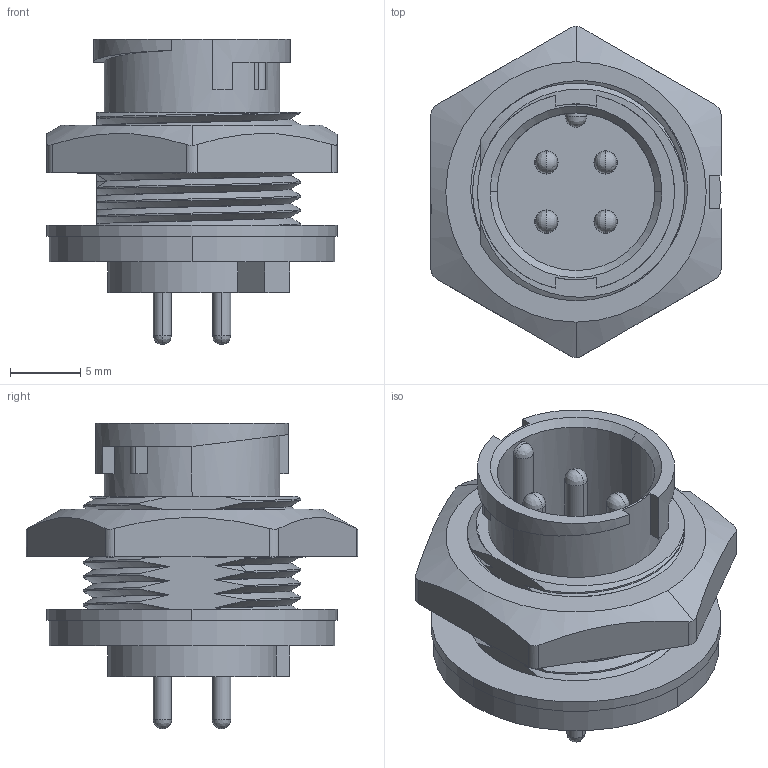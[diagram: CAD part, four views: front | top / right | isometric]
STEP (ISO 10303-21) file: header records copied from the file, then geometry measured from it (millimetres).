
FILE_DESCRIPTION (( 'STEP AP203' ), '1' );
FILE_NAME ('870-04A-113R001.STEP', '2024-06-14T18:46:33', ( '' ), ( '' ), 'SwSTEP 2.0', 'SolidWorks 2020', '' );
FILE_SCHEMA (( 'CONFIG_CONTROL_DESIGN' ));
Length unit declared in the file: millimetre
Products named in the file (1): 870-04A-113R001
Bounding box: 20.6 x 23.54 x 21.7 mm (x, y, z)
Volume: 2658.2 mm3; surface area: 3589.7 mm2
Topology: 2 solids, 2 shells, 228 faces, 598 edges, 362 vertices
Faces by surface type: cylinder 87, bspline 61, plane 51, cone 29
Entity records: 12997 total; most frequent: CARTESIAN_POINT 7974, ORIENTED_EDGE 1128, DIRECTION 863, EDGE_CURVE 564, VERTEX_POINT 362, AXIS2_PLACEMENT_3D 347, EDGE_LOOP 252, ADVANCED_FACE 228
